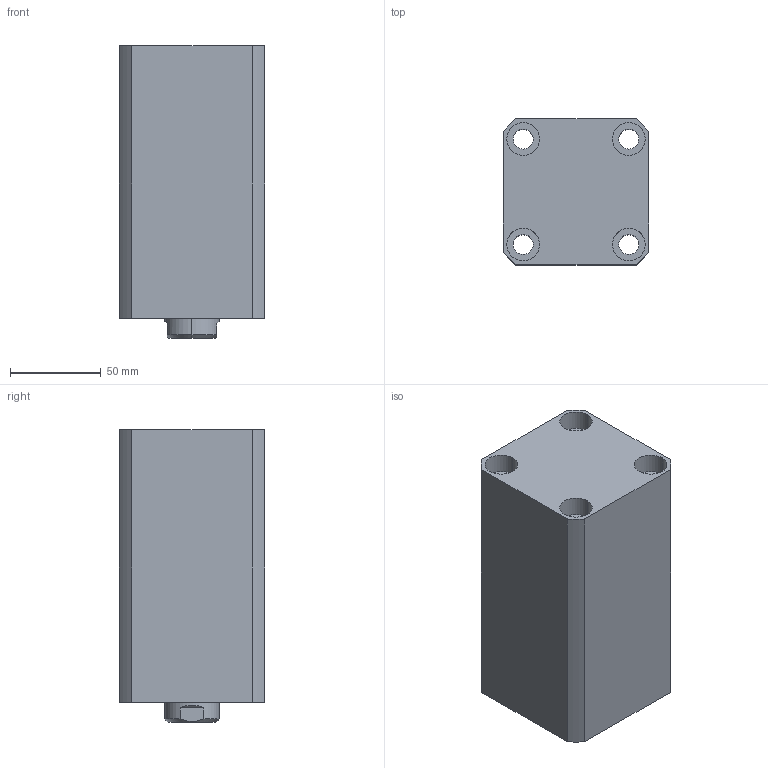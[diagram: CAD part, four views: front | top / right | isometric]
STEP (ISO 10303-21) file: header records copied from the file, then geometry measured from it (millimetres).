
FILE_DESCRIPTION (( 'STEP AP203' ), '1' );
FILE_NAME ('CHTB-SDMA50-90N.STEP', '2018-05-19T02:52:48', ( '' ), ( '' ), 'SwSTEP 2.0', 'SolidWorks 2015', '' );
FILE_SCHEMA (( 'CONFIG_CONTROL_DESIGN' ));
Length unit declared in the file: millimetre
Products named in the file (5): M6; CHTM-SDMA50QG; 掛极SDMA50-90N; CHTB-SDMA50-90N; 活塞杆SDMA50-90N
Assembly tree (5 placements, depth 2):
  CHTB-SDMA50-90N
    掛极SDMA50-90N
    活塞杆SDMA50-90N
    CHTM-SDMA50QG
    M6  x2
Bounding box: 80 x 80 x 161 mm (x, y, z)
Volume: 756158.6 mm3; surface area: 141938.2 mm2
Topology: 5 solids, 5 shells, 270 faces, 703 edges, 464 vertices
Faces by surface type: cylinder 139, plane 58, cone 31, bspline 26, torus 16
Entity records: 14133 total; most frequent: CARTESIAN_POINT 8131, ORIENTED_EDGE 1208, DIRECTION 1054, EDGE_CURVE 604, AXIS2_PLACEMENT_3D 433, VERTEX_POINT 403, EDGE_LOOP 277, FACE_OUTER_BOUND 235
